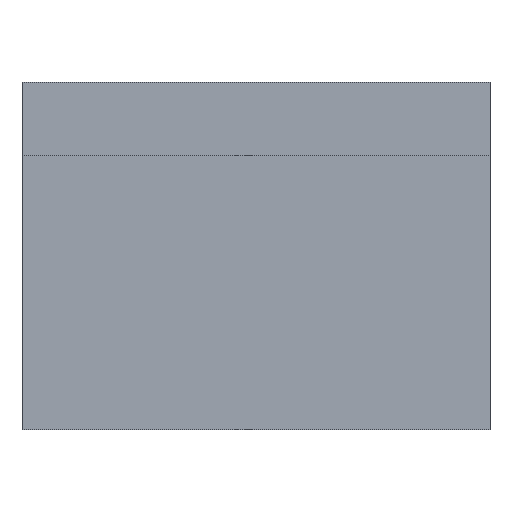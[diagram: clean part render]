
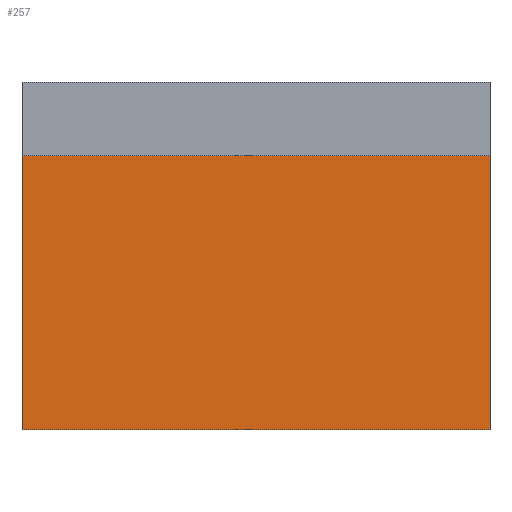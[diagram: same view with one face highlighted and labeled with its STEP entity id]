
A CAD part, front view. The second image highlights one B-rep face of the part: STEP entity #257.
In plain terms, the highlighted free-form (B-spline) face has degree [1, 1] with [2, 2] control points.
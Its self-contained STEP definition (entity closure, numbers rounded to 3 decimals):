
#85 = EDGE_CURVE('',#86,#88,#90,.T.);
#86 = VERTEX_POINT('',#87);
#87 = CARTESIAN_POINT('',(14.,0.,0.));
#88 = VERTEX_POINT('',#89);
#89 = CARTESIAN_POINT('',(14.,0.,8.2));
#90 = B_SPLINE_CURVE_WITH_KNOTS('',1,(#91,#92),.UNSPECIFIED.,.F.,.F.,(2,
    2),(0.,8.2),.PIECEWISE_BEZIER_KNOTS.);
#91 = CARTESIAN_POINT('',(14.,0.,0.));
#92 = CARTESIAN_POINT('',(14.,0.,8.2));
#194 = EDGE_CURVE('',#195,#197,#199,.T.);
#195 = VERTEX_POINT('',#196);
#196 = CARTESIAN_POINT('',(0.,0.,0.));
#197 = VERTEX_POINT('',#198);
#198 = CARTESIAN_POINT('',(0.,0.,8.2));
#199 = B_SPLINE_CURVE_WITH_KNOTS('',1,(#200,#201),.UNSPECIFIED.,.F.,.F.,
  (2,2),(0.,8.2),.PIECEWISE_BEZIER_KNOTS.);
#200 = CARTESIAN_POINT('',(0.,0.,0.));
#201 = CARTESIAN_POINT('',(0.,0.,8.2));
#246 = EDGE_CURVE('',#195,#86,#247,.T.);
#247 = B_SPLINE_CURVE_WITH_KNOTS('',1,(#248,#249),.UNSPECIFIED.,.F.,.F.,
  (2,2),(0.,14.),.PIECEWISE_BEZIER_KNOTS.);
#248 = CARTESIAN_POINT('',(0.,0.,0.));
#249 = CARTESIAN_POINT('',(14.,0.,0.));
#257 = ADVANCED_FACE('',(#258),#268,.F.);
#258 = FACE_BOUND('',#259,.F.);
#259 = EDGE_LOOP('',(#260,#261,#262,#263));
#260 = ORIENTED_EDGE('',*,*,#85,.F.);
#261 = ORIENTED_EDGE('',*,*,#246,.F.);
#262 = ORIENTED_EDGE('',*,*,#194,.T.);
#263 = ORIENTED_EDGE('',*,*,#264,.F.);
#264 = EDGE_CURVE('',#88,#197,#265,.T.);
#265 = B_SPLINE_CURVE_WITH_KNOTS('',1,(#266,#267),.UNSPECIFIED.,.F.,.F.,
  (2,2),(-28.65,-14.65),.PIECEWISE_BEZIER_KNOTS.);
#266 = CARTESIAN_POINT('',(14.,0.,8.2));
#267 = CARTESIAN_POINT('',(0.,0.,8.2));
#268 = B_SPLINE_SURFACE_WITH_KNOTS('',1,1,(
    (#269,#270)
    ,(#271,#272
    )),.UNSPECIFIED.,.F.,.F.,.F.,(2,2),(2,2),(0.,8.2),(0.,14.),
  .PIECEWISE_BEZIER_KNOTS.);
#269 = CARTESIAN_POINT('',(0.,0.,0.));
#270 = CARTESIAN_POINT('',(14.,0.,0.));
#271 = CARTESIAN_POINT('',(0.,0.,8.2));
#272 = CARTESIAN_POINT('',(14.,0.,8.2));
